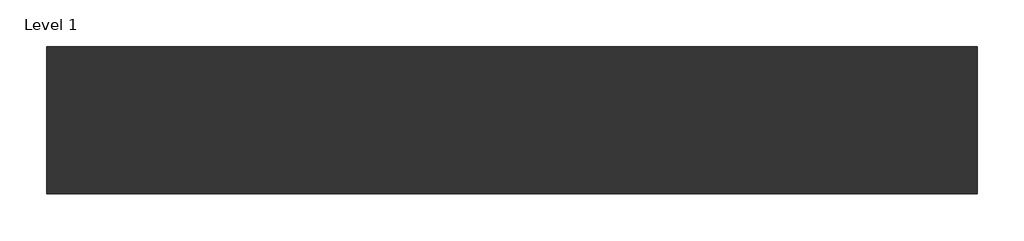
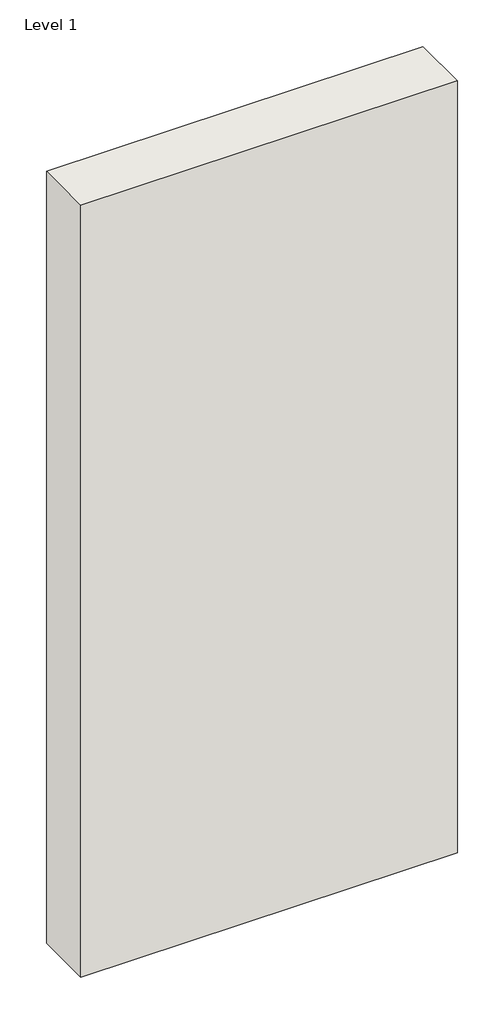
# One storey: 1 wall.
"""IFC4 building model written with IfcOpenShell, lengths in millimetres."""

import ifcopenshell
import ifcopenshell.guid

model = None  # the IFC model being written
_history = None  # IfcOwnerHistory: only IFC2X3 demands one
_inside = {}  # id of a spatial element -> (the spatial element, [elements in it])
_under = {}  # id of a project, library or spatial element -> (it, [spatial elements below it])
_declared = {}  # id of a project -> (the project, [libraries it declares])
_typed = {}  # id of a type object -> (the type object, [elements of that type])
_made_of = {}  # id of a material, layer set ... -> (it, [elements and type objects made of it])


def new_model(schema):
    """Start an empty IFC model of exactly this schema.

    Asked for "IFC4X3", IfcOpenShell would pick the latest addendum, in which some entities
    have other attributes; the version numbers below select the first issue.
    IFC2X3 requires an IfcOwnerHistory on every rooted entity: one is made here for all.
    """
    global model, _history
    if schema == "IFC4X3":
        model = ifcopenshell.file(schema_version=(4, 3, 0, 0))
    else:
        model = ifcopenshell.file(schema=schema)
    _inside.clear()
    _under.clear()
    _declared.clear()
    _typed.clear()
    _made_of.clear()
    _history = None
    if model.schema == "IFC2X3":
        org = make("IfcOrganization", Name="unknown")
        user = make(
            "IfcPersonAndOrganization",
            ThePerson=make("IfcPerson", FamilyName="unknown"),
            TheOrganization=org,
        )
        app = make(
            "IfcApplication",
            ApplicationDeveloper=org,
            Version="unknown",
            ApplicationFullName="unknown",
            ApplicationIdentifier="unknown",
        )
        _history = make(
            "IfcOwnerHistory",
            OwningUser=user,
            OwningApplication=app,
            ChangeAction="ADDED",
            CreationDate=0,
        )
    return model


def make(cls, **values):
    """One entity of the class cls with the attributes given. An attribute that is None is left unset."""
    return model.create_entity(
        cls, **{name: value for name, value in values.items() if value is not None}
    )


def rooted(cls, **values):
    """An entity with a GlobalId (a new one), such as an element, a storey or a relation."""
    return make(cls, GlobalId=ifcopenshell.guid.new(), OwnerHistory=_history, **values)


def si_unit(unit_type, name, prefix=None):
    """IfcSIUnit, for example si_unit("LENGTHUNIT", "METRE", prefix="MILLI")."""
    return make("IfcSIUnit", UnitType=unit_type, Prefix=prefix, Name=name)


def assignment(units):
    """IfcUnitAssignment: the units of a project."""
    return None if units is None else make("IfcUnitAssignment", Units=units)


def point(xyz):
    """IfcCartesianPoint."""
    return None if xyz is None else make("IfcCartesianPoint", Coordinates=xyz)


def direction(xyz):
    """IfcDirection."""
    return None if xyz is None else make("IfcDirection", DirectionRatios=xyz)


def frame(location, z_axis=None, x_axis=None):
    """IfcAxis2Placement3D, a coordinate frame: its origin and axes. An axis left out is left unset."""
    return make(
        "IfcAxis2Placement3D",
        Location=point(location),
        Axis=direction(z_axis),
        RefDirection=direction(x_axis),
    )


def origin():
    """The frame at (0, 0, 0) with its axes left unset."""
    return frame((0.0, 0.0, 0.0))


def origin_with_axes():
    """The frame at (0, 0, 0) with the z axis (0, 0, 1) and the x axis (1, 0, 0) written out."""
    return frame((0.0, 0.0, 0.0), z_axis=(0.0, 0.0, 1.0), x_axis=(1.0, 0.0, 0.0))


def place(relative_to, where):
    """IfcLocalPlacement: puts the frame where relative to a parent placement (None: the world)."""
    return make(
        "IfcLocalPlacement", PlacementRelTo=relative_to, RelativePlacement=where
    )


def context(
    kind, dimensions, precision=None, world=None, true_north=None, identifier=None
):
    """IfcGeometricRepresentationContext, for example the 3D "Model" context."""
    return make(
        "IfcGeometricRepresentationContext",
        ContextIdentifier=identifier,
        ContextType=kind,
        CoordinateSpaceDimension=dimensions,
        Precision=precision,
        WorldCoordinateSystem=world,
        TrueNorth=true_north,
    )


def project(units=None, contexts=None):
    """IfcProject with its units and contexts."""
    return rooted(
        "IfcProject",
        Name="project",
        RepresentationContexts=contexts,
        UnitsInContext=assignment(units),
    )


def spatial(cls, under=None, at=None, **own):
    """A site, building, storey or space (cls), placed at a placement, below another one or the project."""
    s = rooted(cls, ObjectPlacement=at, **own)
    if under is not None:
        _under.setdefault(under.id(), (under, []))[1].append(s)
    return s


def polyline(points):
    """IfcPolyline through the points."""
    return make("IfcPolyline", Points=[point(p) for p in points])


def outline(outer, holes=None, kind="AREA"):
    """IfcArbitraryClosedProfileDef: a profile drawn as a closed curve; with holes, ...WithVoids."""
    if holes is None:
        return make("IfcArbitraryClosedProfileDef", ProfileType=kind, OuterCurve=outer)
    return make(
        "IfcArbitraryProfileDefWithVoids",
        ProfileType=kind,
        OuterCurve=outer,
        InnerCurves=holes,
    )


def extrude(swept, where, along, depth):
    """IfcExtrudedAreaSolid: the profile swept, set in the frame where, extruded along a direction by depth."""
    return make(
        "IfcExtrudedAreaSolid",
        SweptArea=swept,
        Position=where,
        ExtrudedDirection=direction(along),
        Depth=depth,
    )


def shape(context_of_items, identifier, shape_type, items):
    """IfcShapeRepresentation: the items that make up one representation, for example the "Body"."""
    return make(
        "IfcShapeRepresentation",
        ContextOfItems=context_of_items,
        RepresentationIdentifier=identifier,
        RepresentationType=shape_type,
        Items=items,
    )


def made_of(thing, what):
    """Note that an element or type object is made of a material, layer set ...; save() writes the relation."""
    if what is not None:
        _made_of.setdefault(what.id(), (what, []))[1].append(thing)
    return thing


def element(
    cls,
    number,
    at=None,
    inside=None,
    cuts=None,
    type_object=None,
    material=None,
    context=None,
    identifier="Body",
    shape_type=None,
    held_by="IfcProductDefinitionShape",
    body=None,
    shapes=None,
    **own,
):
    """One element of the class cls, such as IfcWall. Its Tag is "e" and its number.

    at: its placement. inside: the storey or other place that contains it. cuts: it is an
    opening in that element (IfcRelVoidsElement). A single representation is given by context,
    identifier, shape_type and body (its items); several are given by shapes. held_by: the class
    of the entity that holds the representations. save() writes the other relations.
    """
    e = rooted(cls, Tag="e%d" % number, ObjectPlacement=at, **own)
    if body is not None:
        shapes = [shape(context, identifier, shape_type, body)]
    if shapes is not None:
        e.Representation = make(held_by, Representations=shapes)
    if inside is not None:
        _inside.setdefault(inside.id(), (inside, []))[1].append(e)
    if cuts is not None:
        rooted(
            "IfcRelVoidsElement", RelatingBuildingElement=cuts, RelatedOpeningElement=e
        )
    if type_object is not None:
        _typed.setdefault(type_object.id(), (type_object, []))[1].append(e)
    return made_of(e, material)


def aggregate(whole, parts):
    """IfcRelAggregates: a whole, such as a stair, and the parts it consists of."""
    return rooted("IfcRelAggregates", RelatingObject=whole, RelatedObjects=parts)


def save(model, path):
    """Write the relations noted so far, then the file.

    IfcRelAggregates (storeys below a building ...), IfcRelContainedInSpatialStructure (elements
    in a storey), IfcRelDefinesByType, IfcRelAssociatesMaterial and IfcRelDeclares: one each for
    every whole, place, type object, material and project.
    """
    for whole, parts in _under.values():
        aggregate(whole, parts)
    for where, things in _inside.values():
        rooted(
            "IfcRelContainedInSpatialStructure",
            RelatedElements=things,
            RelatingStructure=where,
        )
    for kind, things in _typed.values():
        rooted("IfcRelDefinesByType", RelatedObjects=things, RelatingType=kind)
    for what, things in _made_of.values():
        rooted("IfcRelAssociatesMaterial", RelatedObjects=things, RelatingMaterial=what)
    for by, libraries in _declared.values():
        rooted("IfcRelDeclares", RelatingContext=by, RelatedDefinitions=libraries)
    model.write(path)


model = new_model("IFC4")

# Units and contexts
model_context = context("Model", 3, world=origin())
ifc_project = project(units=[si_unit("LENGTHUNIT", "METRE", prefix="MILLI")], contexts=[model_context])

# Site, building, storey
site = spatial("IfcSite", under=ifc_project)
building = spatial("IfcBuilding", under=site)
storey = spatial("IfcBuildingStorey", under=building, Name="Level 1", Elevation=0.0)

# Wall
placement = place(None, origin())
element("IfcWall", 1, ObjectType="Tabique Doble – Placo® 190(70) 2xBA13 + 2x70LM + 2xBA13 c/600 - ≥ 55,9 dBA", at=placement, inside=storey, context=model_context, shape_type="SweptSolid", body=[
    extrude(outline(polyline([(-28676.4711674, -80923.3970389), (-29876.4711674, -80923.3970389), (-29876.4711674, -80733.3970389), (-28676.4711674, -80733.3970389), (-28676.4711674, -80923.3970389)])), origin_with_axes(), (0.0, 0.0, 1.0), 2600.0),
])

save(model, "model.ifc")
